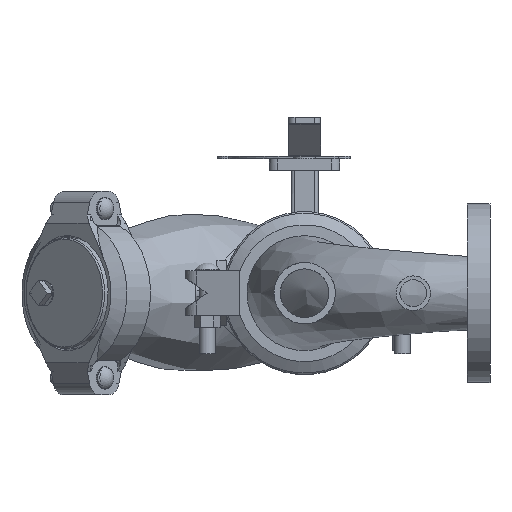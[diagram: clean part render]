
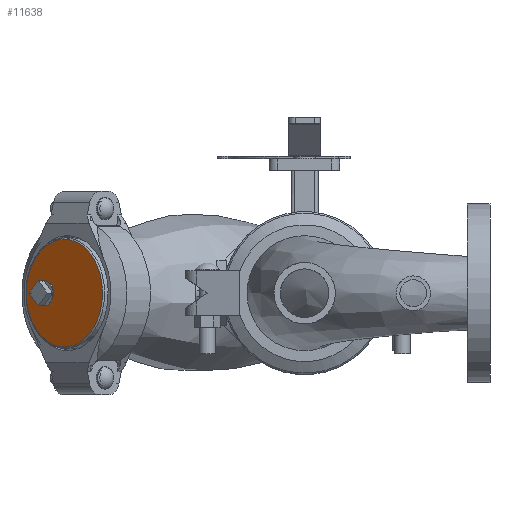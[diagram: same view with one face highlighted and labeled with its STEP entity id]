
A CAD part, front view. The second image highlights one B-rep face of the part: STEP entity #11638.
In plain terms, the highlighted planar face has unit normal (-0.707, -0.707, 0) as drawn and (1, 0, 0) by its records, which use the part's own axes.
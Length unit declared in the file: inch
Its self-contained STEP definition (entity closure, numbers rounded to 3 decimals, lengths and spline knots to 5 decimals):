
#2300=FACE_BOUND('',#3330,.T.);
#2650=FACE_OUTER_BOUND('',#3329,.T.);
#3329=EDGE_LOOP('',(#8513,#8514));
#3330=EDGE_LOOP('',(#8515));
#4012=CIRCLE('',#12816,0.5);
#4020=CIRCLE('',#12827,2.107);
#4021=CIRCLE('',#12828,2.107);
#4859=VERTEX_POINT('',#21922);
#4867=VERTEX_POINT('',#21943);
#4868=VERTEX_POINT('',#21944);
#6180=EDGE_CURVE('',#4859,#4859,#4012,.T.);
#6189=EDGE_CURVE('',#4867,#4868,#4020,.T.);
#6190=EDGE_CURVE('',#4868,#4867,#4021,.T.);
#8513=ORIENTED_EDGE('',*,*,#6189,.T.);
#8514=ORIENTED_EDGE('',*,*,#6190,.T.);
#8515=ORIENTED_EDGE('',*,*,#6180,.T.);
#10518=PLANE('',#12830);
#11638=ADVANCED_FACE('',(#2650,#2300),#10518,.T.);
#12816=AXIS2_PLACEMENT_3D('',#21924,#15017,#15018);
#12827=AXIS2_PLACEMENT_3D('',#21945,#15040,#15041);
#12828=AXIS2_PLACEMENT_3D('',#21946,#15042,#15043);
#12830=AXIS2_PLACEMENT_3D('',#21948,#15046,#15047);
#15017=DIRECTION('center_axis',(-1.,0.,0.));
#15018=DIRECTION('ref_axis',(0.,0.,1.));
#15040=DIRECTION('center_axis',(1.,0.,0.));
#15041=DIRECTION('ref_axis',(0.,0.,-1.));
#15042=DIRECTION('center_axis',(1.,0.,0.));
#15043=DIRECTION('ref_axis',(0.,0.,-1.));
#15046=DIRECTION('center_axis',(1.,0.,0.));
#15047=DIRECTION('ref_axis',(0.,0.,-1.));
#21922=CARTESIAN_POINT('',(1.13,1.1,-0.5));
#21924=CARTESIAN_POINT('Origin',(1.13,1.1,0.));
#21943=CARTESIAN_POINT('',(1.13,2.107,0.));
#21944=CARTESIAN_POINT('',(1.13,0.,2.107));
#21945=CARTESIAN_POINT('Origin',(1.13,0.,0.));
#21946=CARTESIAN_POINT('Origin',(1.13,0.,0.));
#21948=CARTESIAN_POINT('Origin',(1.13,0.,0.));
